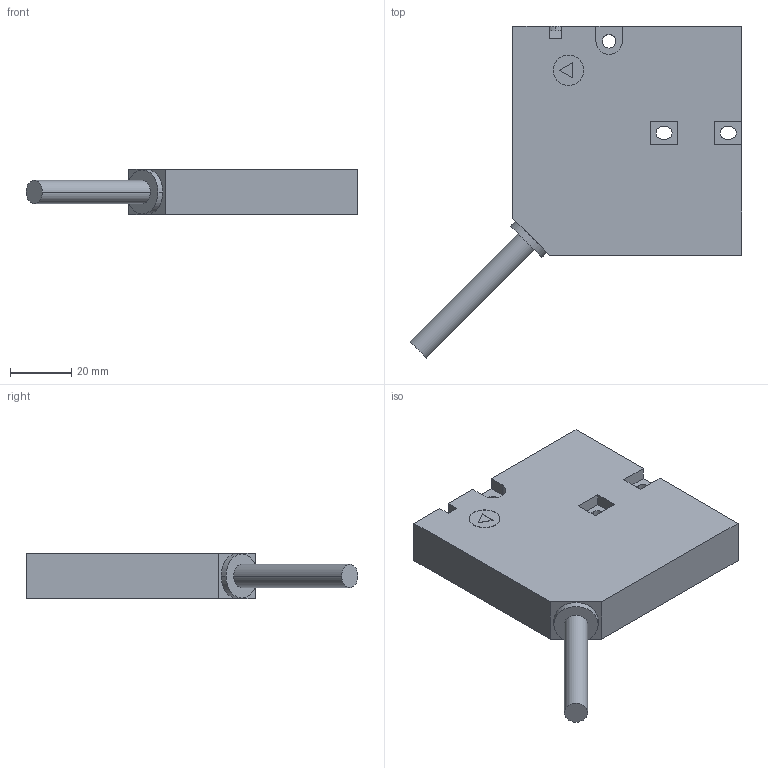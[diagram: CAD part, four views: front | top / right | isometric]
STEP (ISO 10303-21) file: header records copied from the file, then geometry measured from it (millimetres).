
FILE_DESCRIPTION (( 'STEP AP203' ), '1' );
FILE_NAME ('sg-b1-sa-g1.STEP', '2013-07-23T03:55:59', ( ' ' ), ( ' ' ), 'SwSTEP 2.0', 'SolidWorks 2010', '' );
FILE_SCHEMA (( 'CONFIG_CONTROL_DESIGN' ));
Length unit declared in the file: millimetre
Products named in the file (1): sg-b1-sa-g1
Bounding box: 108.67 x 108.67 x 15 mm (x, y, z)
Volume: 82308 mm3; surface area: 18695.2 mm2
Topology: 1 solids, 1 shells, 107 faces, 270 edges, 176 vertices
Faces by surface type: plane 78, cylinder 29
Entity records: 3272 total; most frequent: CARTESIAN_POINT 563, ORIENTED_EDGE 540, DIRECTION 538, EDGE_CURVE 270, LINE 212, VECTOR 212, VERTEX_POINT 176, AXIS2_PLACEMENT_3D 163
